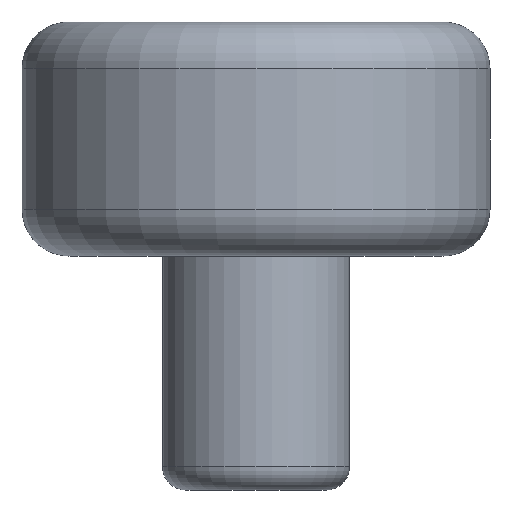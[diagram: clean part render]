
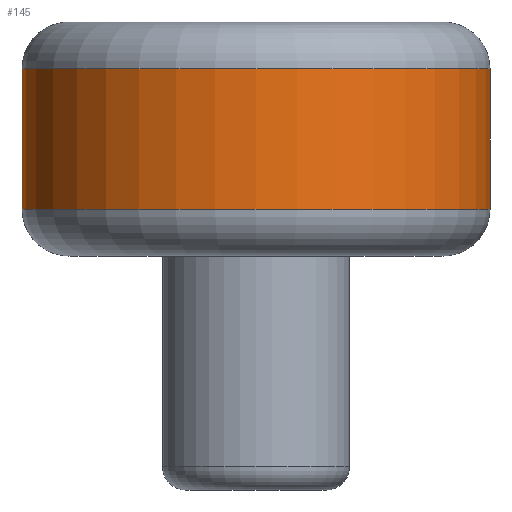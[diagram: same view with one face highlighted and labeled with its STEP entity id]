
A CAD part, front view. The second image highlights one B-rep face of the part: STEP entity #145.
In plain terms, the highlighted cylindrical face has radius 5 mm (diameter 10 mm), a full revolution.
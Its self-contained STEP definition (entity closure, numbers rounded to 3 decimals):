
#21=LINE('',#269,#25);
#25=VECTOR('',#215,5.);
#29=CYLINDRICAL_SURFACE('',#179,5.);
#34=FACE_OUTER_BOUND('',#45,.T.);
#45=EDGE_LOOP('',(#107,#108,#109,#110));
#59=CIRCLE('',#178,5.);
#60=CIRCLE('',#180,5.);
#73=VERTEX_POINT('',#263);
#74=VERTEX_POINT('',#267);
#86=EDGE_CURVE('',#73,#73,#59,.T.);
#87=EDGE_CURVE('',#74,#74,#60,.T.);
#88=EDGE_CURVE('',#74,#73,#21,.T.);
#107=ORIENTED_EDGE('',*,*,#87,.F.);
#108=ORIENTED_EDGE('',*,*,#88,.T.);
#109=ORIENTED_EDGE('',*,*,#86,.F.);
#110=ORIENTED_EDGE('',*,*,#88,.F.);
#145=ADVANCED_FACE('',(#34),#29,.T.);
#178=AXIS2_PLACEMENT_3D('',#265,#209,#210);
#179=AXIS2_PLACEMENT_3D('',#266,#211,#212);
#180=AXIS2_PLACEMENT_3D('',#268,#213,#214);
#209=DIRECTION('center_axis',(0.,0.,-1.));
#210=DIRECTION('ref_axis',(-1.,0.,0.));
#211=DIRECTION('center_axis',(0.,0.,1.));
#212=DIRECTION('ref_axis',(-1.,0.,0.));
#213=DIRECTION('center_axis',(0.,0.,1.));
#214=DIRECTION('ref_axis',(-1.,0.,0.));
#215=DIRECTION('',(0.,0.,-1.));
#263=CARTESIAN_POINT('',(5.,0.,1.));
#265=CARTESIAN_POINT('Origin',(0.,0.,1.));
#266=CARTESIAN_POINT('Origin',(0.,0.,0.));
#267=CARTESIAN_POINT('',(5.,0.,4.));
#268=CARTESIAN_POINT('Origin',(0.,0.,4.));
#269=CARTESIAN_POINT('',(5.,0.,0.));
